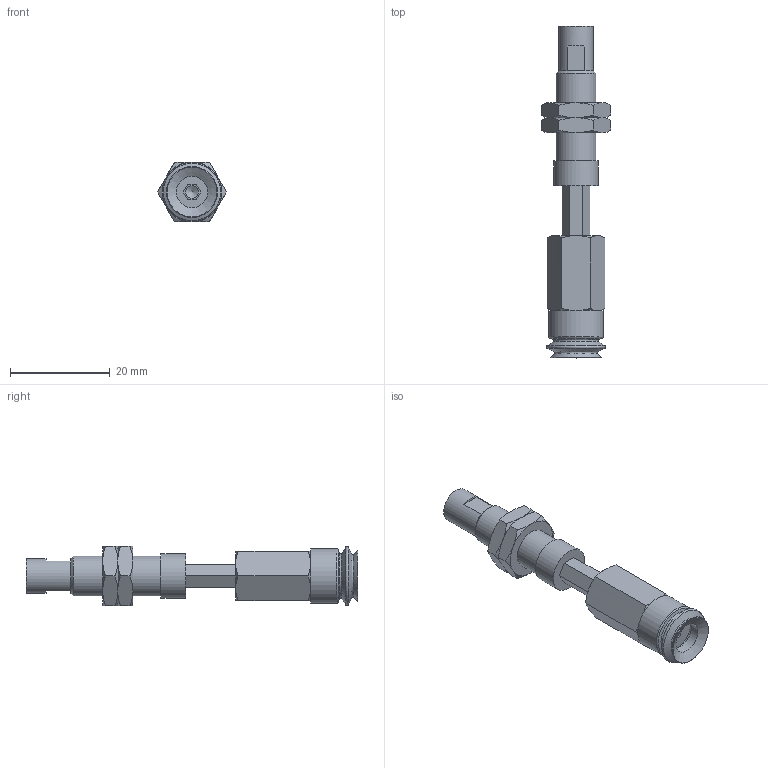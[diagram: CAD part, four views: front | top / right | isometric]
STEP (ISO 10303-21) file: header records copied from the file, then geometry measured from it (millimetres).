
FILE_DESCRIPTION(('STEP AP203'),'1');
FILE_NAME('.stp','2025-08-27T06:46:33',(' '),(' '),'Spatial InterOp 3D',' ',' ');
FILE_SCHEMA(('CONFIG_CONTROL_DESIGN'));
Length unit declared in the file: millimetre
Products named in the file (7): BNABPJTH-10-10-※; ADAPTER; NAPCTH-10-10-MBODY; Adapter-10-NAPJ; NAPJH-10-10-NUT; NAPJTH-10-10-FBODY; BPJG-10-※
Assembly tree (7 placements, depth 2):
  BNABPJTH-10-10-※
    ADAPTER
    NAPCTH-10-10-MBODY
    Adapter-10-NAPJ
    NAPJH-10-10-NUT  x2
    NAPJTH-10-10-FBODY
    BPJG-10-※
Bounding box: 13.86 x 66.5 x 12 mm (x, y, z)
Volume: 4035.5 mm3; surface area: 4483.4 mm2
Topology: 7 solids, 7 shells, 132 faces, 285 edges, 173 vertices
Faces by surface type: plane 60, cone 51, cylinder 14, torus 7
Full cylindrical faces by diameter (mm): 2.5 x1, 4.134 x2, 4.6 x1, 5 x1, 6.266 x1, 7 x1, 7.188 x2, 7.8 x1, 8 x2, 9 x1, 11 x1
Entity records: 3444 total; most frequent: CARTESIAN_POINT 938, DIRECTION 450, ORIENTED_EDGE 386, EDGE_CURVE 193, AXIS2_PLACEMENT_3D 188, EDGE_LOOP 156, VERTEX_POINT 136, FACE_OUTER_BOUND 129
